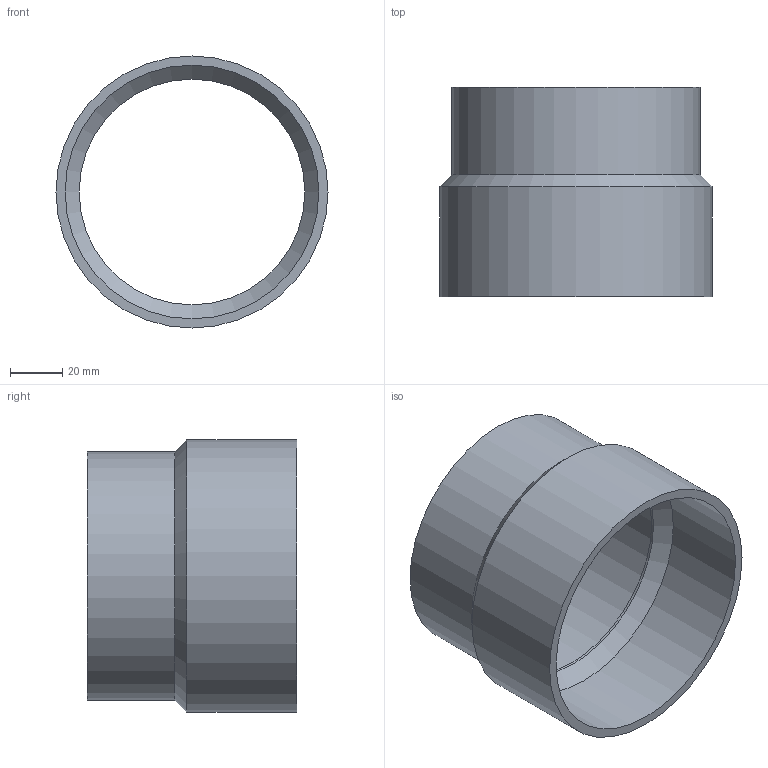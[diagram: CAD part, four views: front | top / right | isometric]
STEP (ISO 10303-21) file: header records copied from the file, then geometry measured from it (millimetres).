
FILE_DESCRIPTION(/* description */ (''),/* implementation_level */ '2;1');
FILE_NAME(/* name */ 'P:\Adapter\Schweißstutzen und Schweißadapter\A 104a_89i.stp',/* time_stamp */ '2019-04-01T13:24:34+02:00',/* author */ ('neufeld'),/* organization */ (''),/* preprocessor_version */ 'ST-DEVELOPER v17',/* originating_system */ 'Autodesk Inventor 2019',/* authorisation */ '');
FILE_SCHEMA (('AUTOMOTIVE_DESIGN { 1 0 10303 214 3 1 1 }'));
Length unit declared in the file: millimetre
Products named in the file (1): A 104a_89i
Bounding box: 104 x 80 x 104 mm (x, y, z)
Volume: 88876.7 mm3; surface area: 51979.4 mm2
Topology: 1 solids, 1 shells, 10 faces, 27 edges, 20 vertices
Faces by surface type: cylinder 5, plane 3, cone 2
Full cylindrical faces by diameter (mm): 86.3 x1, 89.3 x1, 95 x1, 97 x1, 104 x1
Entity records: 382 total; most frequent: DIRECTION 69, CARTESIAN_POINT 58, ORIENTED_EDGE 54, AXIS2_PLACEMENT_3D 31, EDGE_CURVE 27, CIRCLE 20, VERTEX_POINT 20, EDGE_LOOP 13
